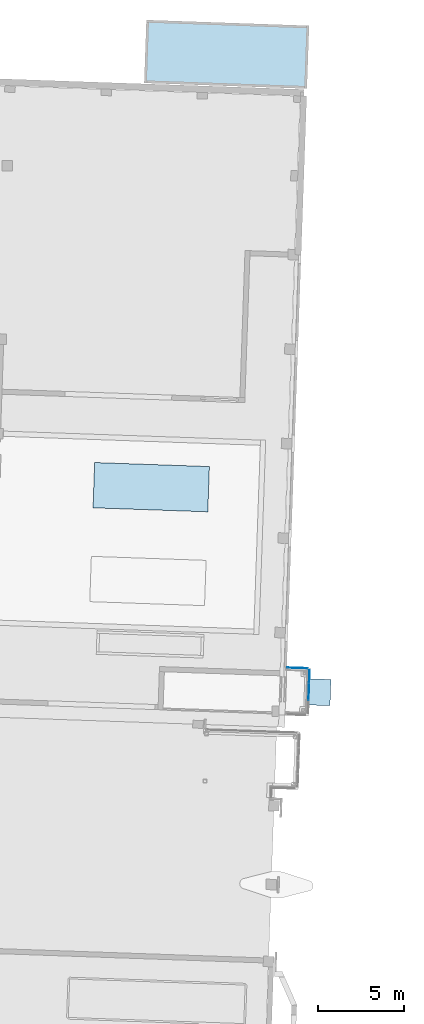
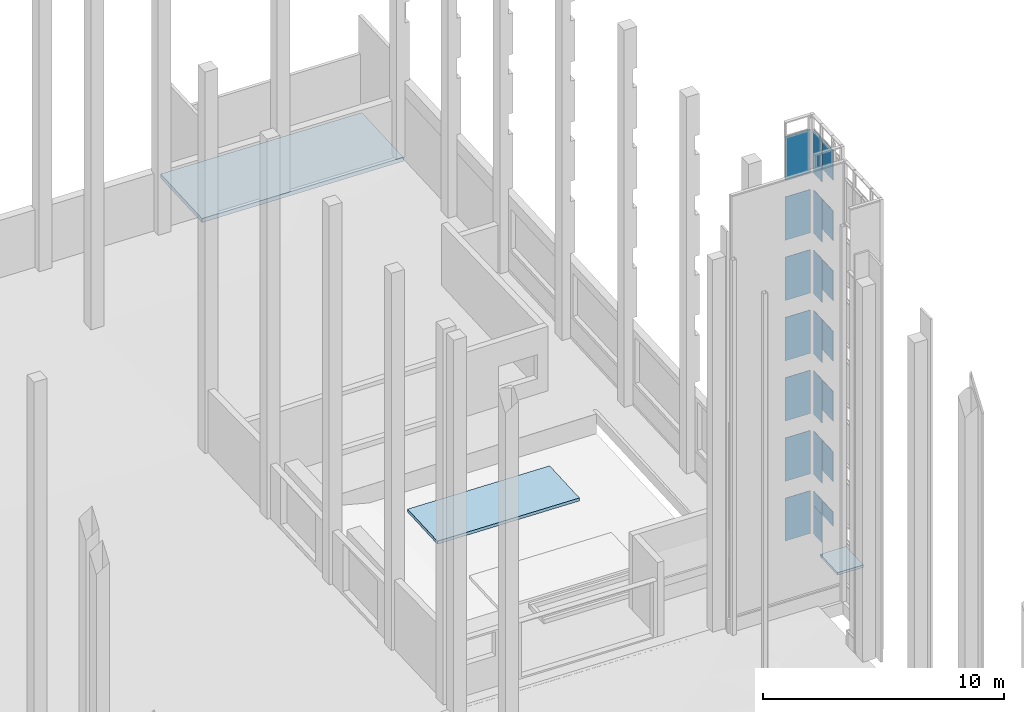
# One storey, part 24 of 44: 22 plates, 3 slabs, 2 elements without a shape of their own.
"""IFC2X3 building model written with IfcOpenShell, lengths in feet."""

from ifc_helpers import new_model, entity, si_unit, converted_unit, derived_unit, direction, frame, frame_2d, origin, origin_2d_with_axis, place, context, subcontext, project, spatial, polyline, rectangle, outline, extrude, source, transform, mapped, material, layer, layer_set, layer_usage, type_object, type_shapes, element, aggregate, save


model = new_model("IFC2X3")

# Units and contexts
model_context = context("Model", 3, precision=0.0001, world=origin(), true_north=direction((0.999390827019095, 0.0348994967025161)))
body_context = subcontext(model_context, "Body", "Model", "MODEL_VIEW")
ifc_project = project(units=[converted_unit("LENGTHUNIT", "FOOT", entity("IfcRatioMeasure", 0.3048), si_unit("LENGTHUNIT", "METRE"), dimensions=[1, 0, 0, 0, 0, 0, 0]), converted_unit("AREAUNIT", "SQUARE FOOT", entity("IfcRatioMeasure", 0.09290304), si_unit("AREAUNIT", "SQUARE_METRE"), dimensions=[2, 0, 0, 0, 0, 0, 0]), converted_unit("VOLUMEUNIT", "CUBIC FOOT", entity("IfcRatioMeasure", 0.028316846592), si_unit("VOLUMEUNIT", "CUBIC_METRE"), dimensions=[3, 0, 0, 0, 0, 0, 0]), converted_unit("PLANEANGLEUNIT", "DEGREE", entity("IfcRatioMeasure", 0.0174532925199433), si_unit("PLANEANGLEUNIT", "RADIAN"), dimensions=[0, 0, 0, 0, 0, 0, 0]), si_unit("MASSUNIT", "GRAM", prefix="KILO"), si_unit("TIMEUNIT", "SECOND"), si_unit("FREQUENCYUNIT", "HERTZ"), si_unit("THERMODYNAMICTEMPERATUREUNIT", "DEGREE_CELSIUS"), derived_unit("THERMALTRANSMITTANCEUNIT", [(si_unit("MASSUNIT", "GRAM", prefix="KILO"), 1), (si_unit("THERMODYNAMICTEMPERATUREUNIT", "KELVIN"), -1), (si_unit("TIMEUNIT", "SECOND"), -3)]), derived_unit("VOLUMETRICFLOWRATEUNIT", [(si_unit("LENGTHUNIT", "METRE"), 3), (si_unit("TIMEUNIT", "SECOND"), -1)]), si_unit("ELECTRICCURRENTUNIT", "AMPERE"), si_unit("ELECTRICVOLTAGEUNIT", "VOLT"), si_unit("POWERUNIT", "WATT"), si_unit("FORCEUNIT", "NEWTON"), si_unit("ILLUMINANCEUNIT", "LUX"), si_unit("LUMINOUSFLUXUNIT", "LUMEN"), si_unit("LUMINOUSINTENSITYUNIT", "CANDELA"), derived_unit("USERDEFINED", [(si_unit("MASSUNIT", "GRAM", prefix="KILO"), -1), (si_unit("LENGTHUNIT", "METRE"), -2), (si_unit("TIMEUNIT", "SECOND"), 3), (si_unit("LUMINOUSFLUXUNIT", "LUMEN"), 1)]), derived_unit("LINEARVELOCITYUNIT", [(si_unit("LENGTHUNIT", "METRE"), 1), (si_unit("TIMEUNIT", "SECOND"), -1)]), si_unit("PRESSUREUNIT", "PASCAL"), derived_unit("USERDEFINED", [(si_unit("LENGTHUNIT", "METRE"), -2), (si_unit("MASSUNIT", "GRAM", prefix="KILO"), 1), (si_unit("TIMEUNIT", "SECOND"), -2)])], contexts=[model_context])

# Site, building, storey
site_placement = place(None, frame((892.518771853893, 322.38689265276, 0.00393700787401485), z_axis=(0.0, 0.0, 1.0), x_axis=(0.0348994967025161, 0.999390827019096, 0.0)))
site = spatial("IfcSite", under=ifc_project, at=site_placement, Name="Default", CompositionType="ELEMENT")
building_placement = place(site_placement, origin())
building = spatial("IfcBuilding", under=site, at=building_placement, CompositionType="ELEMENT")
storey_placement = place(building_placement, frame((0.0, 0.0, 544.75)))
storey = spatial("IfcBuildingStorey", under=building, at=storey_placement, Name="Exist Garage - Ground Level", CompositionType="ELEMENT", Elevation=544.75)

# Curtain wall, plates
curtain_wall_type = type_object("IfcCurtainWallType", Name="Curtain Wall:(Existing) Curtainwall - Blank", PredefinedType="NOTDEFINED")
curtain_wall_1_placement = place(storey_placement, frame((0.0, 0.0, -544.75)))
curtain_wall_1 = element("IfcCurtainWall", 1, at=curtain_wall_1_placement, inside=storey, type_object=curtain_wall_type, Name="Curtain Wall:(Existing) Curtainwall - Blank", ObjectType="Curtain Wall:(Existing) Curtainwall - Blank")
ifc_material_1 = material(Name="Glazing - Core & Shell Curtain Wall")
plate_type_1 = type_object("IfcPlateType", Name="1\" Insulated Clear Glass", PredefinedType="CURTAIN_PANEL", material=ifc_material_1)
shared_shape_1 = source(origin(), body_context, "Body", "SweptSolid", [
    extrude(rectangle(XDim=0.0833333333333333, YDim=3.86979166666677, at=origin_2d_with_axis()), frame((0.0, 0.0, 0.0), z_axis=(0.0, 0.0, 1.0), x_axis=(0.0, 1.0, 0.0)), (0.0, 0.0, 1.0), 7.09375),
])
type_shapes(plate_type_1, [shared_shape_1])
plate_1_placement = place(curtain_wall_1_placement, frame((114.302296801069, 233.198849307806, 547.130208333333), z_axis=(0.0, 0.0, 1.0), x_axis=(0.0, 1.0, 0.0)))
plate_1 = element("IfcPlate", 2, at=plate_1_placement, type_object=plate_type_1, material=ifc_material_1, Name="System Panel:1\" Insulated Clear Glass", ObjectType="1\" Insulated Clear Glass", context=body_context, shape_type="MappedRepresentation", body=[
    mapped(shared_shape_1, transform((0.0, 0.0, 0.0), scale=1.0)),
])
plate_type_2 = type_object("IfcPlateType", Name="1\" Insulated Clear Glass", PredefinedType="CURTAIN_PANEL", material=ifc_material_1)
shared_shape_2 = source(origin(), body_context, "Body", "SweptSolid", [
    extrude(rectangle(XDim=0.0833333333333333, YDim=3.86979166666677, at=origin_2d_with_axis()), frame((0.0, 0.0, 0.0), z_axis=(0.0, 0.0, 1.0), x_axis=(0.0, 1.0, 0.0)), (0.0, 0.0, 1.0), 7.19791666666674),
])
type_shapes(plate_type_2, [shared_shape_2])
plate_2_placement = place(curtain_wall_1_placement, frame((114.302296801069, 233.198849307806, 557.026041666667), z_axis=(0.0, 0.0, 1.0), x_axis=(0.0, 1.0, 0.0)))
plate_2 = element("IfcPlate", 3, at=plate_2_placement, type_object=plate_type_2, material=ifc_material_1, Name="System Panel:1\" Insulated Clear Glass", ObjectType="1\" Insulated Clear Glass", context=body_context, shape_type="MappedRepresentation", body=[
    mapped(shared_shape_2, transform((0.0, 0.0, 0.0), scale=1.0)),
])
plate_3_placement = place(curtain_wall_1_placement, frame((114.302296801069, 233.198849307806, 567.026041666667), z_axis=(0.0, 0.0, 1.0), x_axis=(0.0, 1.0, 0.0)))
plate_3 = element("IfcPlate", 4, at=plate_3_placement, type_object=plate_type_2, material=ifc_material_1, Name="System Panel:1\" Insulated Clear Glass", ObjectType="1\" Insulated Clear Glass", context=body_context, shape_type="MappedRepresentation", body=[
    mapped(shared_shape_2, transform((0.0, 0.0, 0.0), scale=1.0)),
])
plate_4_placement = place(curtain_wall_1_placement, frame((114.302296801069, 233.198849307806, 577.026041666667), z_axis=(0.0, 0.0, 1.0), x_axis=(0.0, 1.0, 0.0)))
plate_4 = element("IfcPlate", 5, at=plate_4_placement, type_object=plate_type_2, material=ifc_material_1, Name="System Panel:1\" Insulated Clear Glass", ObjectType="1\" Insulated Clear Glass", context=body_context, shape_type="MappedRepresentation", body=[
    mapped(shared_shape_2, transform((0.0, 0.0, 0.0), scale=1.0)),
])
plate_5_placement = place(curtain_wall_1_placement, frame((114.302296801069, 233.198849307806, 587.026041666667), z_axis=(0.0, 0.0, 1.0), x_axis=(0.0, 1.0, 0.0)))
plate_5 = element("IfcPlate", 6, at=plate_5_placement, type_object=plate_type_2, material=ifc_material_1, Name="System Panel:1\" Insulated Clear Glass", ObjectType="1\" Insulated Clear Glass", context=body_context, shape_type="MappedRepresentation", body=[
    mapped(shared_shape_2, transform((0.0, 0.0, 0.0), scale=1.0)),
])
plate_6_placement = place(curtain_wall_1_placement, frame((114.302296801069, 233.198849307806, 597.026041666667), z_axis=(0.0, 0.0, 1.0), x_axis=(0.0, 1.0, 0.0)))
plate_6 = element("IfcPlate", 7, at=plate_6_placement, type_object=plate_type_2, material=ifc_material_1, Name="System Panel:1\" Insulated Clear Glass", ObjectType="1\" Insulated Clear Glass", context=body_context, shape_type="MappedRepresentation", body=[
    mapped(shared_shape_2, transform((0.0, 0.0, 0.0), scale=1.0)),
])
plate_7_placement = place(curtain_wall_1_placement, frame((114.302296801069, 233.198849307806, 607.026041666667), z_axis=(0.0, 0.0, 1.0), x_axis=(0.0, 1.0, 0.0)))
plate_7 = element("IfcPlate", 8, at=plate_7_placement, type_object=plate_type_2, material=ifc_material_1, Name="System Panel:1\" Insulated Clear Glass", ObjectType="1\" Insulated Clear Glass", context=body_context, shape_type="MappedRepresentation", body=[
    mapped(shared_shape_2, transform((0.0, 0.0, 0.0), scale=1.0)),
])
aggregate(curtain_wall_1, [plate_1, plate_2, plate_3, plate_4, plate_5, plate_6, plate_7])

curtain_wall_2_placement = place(storey_placement, frame((0.0, 0.0, -544.75)))
curtain_wall_2 = element("IfcCurtainWall", 9, at=curtain_wall_2_placement, inside=storey, type_object=curtain_wall_type, Name="Curtain Wall:(Existing) Curtainwall - Blank", ObjectType="Curtain Wall:(Existing) Curtainwall - Blank")
plate_type_3 = type_object("IfcPlateType", Name="1\" Insulated Clear Glass", PredefinedType="CURTAIN_PANEL", material=ifc_material_1)
shared_shape_3 = source(origin(), body_context, "Body", "SweptSolid", [
    extrude(outline(polyline([(-3.15277777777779, -0.84375062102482), (3.92534722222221, -0.84375062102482), (3.92534722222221, 1.60937624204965), (-0.772569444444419, 1.60937624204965), (-0.772569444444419, -0.765625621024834), (-3.15277777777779, -0.765625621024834), (-3.15277777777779, -0.84375062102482)])), frame((-0.38281281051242, -0.0416666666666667, 3.15277777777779), z_axis=(0.0, 1.0, 0.0), x_axis=(0.0, 0.0, 1.0)), (0.0, 0.0, 1.0), 0.0833333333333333),
])
type_shapes(plate_type_3, [shared_shape_3])
plate_8_placement = place(curtain_wall_2_placement, frame((112.700733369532, 230.888953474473, 544.75)))
plate_8 = element("IfcPlate", 10, at=plate_8_placement, type_object=plate_type_3, material=ifc_material_1, Name="System Panel:1\" Insulated Clear Glass", ObjectType="1\" Insulated Clear Glass", context=body_context, shape_type="MappedRepresentation", body=[
    mapped(shared_shape_3, transform((0.0, 0.0, 0.0), scale=1.0)),
])
plate_type_4 = type_object("IfcPlateType", Name="1\" Insulated Clear Glass", PredefinedType="CURTAIN_PANEL", material=ifc_material_1)
shared_shape_4 = source(origin(), body_context, "Body", "SweptSolid", [
    extrude(rectangle(XDim=0.0833333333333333, YDim=2.45312686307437, at=origin_2d_with_axis()), frame((0.0, 0.0, 0.0), z_axis=(0.0, 0.0, 1.0), x_axis=(0.0, 1.0, 0.0)), (0.0, 0.0, 1.0), 2.34375000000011),
])
type_shapes(plate_type_4, [shared_shape_4])
plate_9_placement = place(curtain_wall_2_placement, frame((112.700733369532, 230.888953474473, 551.880208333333)))
plate_9 = element("IfcPlate", 11, at=plate_9_placement, type_object=plate_type_4, material=ifc_material_1, Name="System Panel:1\" Insulated Clear Glass", ObjectType="1\" Insulated Clear Glass", context=body_context, shape_type="MappedRepresentation", body=[
    mapped(shared_shape_4, transform((0.0, 0.0, 0.0), scale=1.0)),
])
plate_type_5 = type_object("IfcPlateType", Name="1\" Insulated Clear Glass", PredefinedType="CURTAIN_PANEL", material=ifc_material_1)
shared_shape_5 = source(origin(), body_context, "Body", "SweptSolid", [
    extrude(rectangle(XDim=0.0833333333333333, YDim=3.15625000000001, at=origin_2d_with_axis()), frame((0.0, 0.0, 0.0), z_axis=(0.0, 0.0, 1.0), x_axis=(0.0, 1.0, 0.0)), (0.0, 0.0, 1.0), 2.34375000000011),
])
type_shapes(plate_type_5, [shared_shape_5])
plate_10_placement = place(curtain_wall_2_placement, frame((109.843961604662, 230.888953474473, 551.880208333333)))
plate_10 = element("IfcPlate", 12, at=plate_10_placement, type_object=plate_type_5, material=ifc_material_1, Name="System Panel:1\" Insulated Clear Glass", ObjectType="1\" Insulated Clear Glass", context=body_context, shape_type="MappedRepresentation", body=[
    mapped(shared_shape_5, transform((0.0, 0.0, 0.0), scale=1.0)),
])
plate_type_6 = type_object("IfcPlateType", Name="1\" Insulated Clear Glass", PredefinedType="CURTAIN_PANEL", material=ifc_material_1)
shared_shape_6 = source(origin(), body_context, "Body", "SweptSolid", [
    extrude(rectangle(XDim=7.19791666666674, YDim=2.45312686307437, at=frame_2d((0.458333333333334, 0.0), x_axis=(1.0, 0.0))), frame((0.0, -0.0416666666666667, 3.14062500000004), z_axis=(0.0, 1.0, 0.0), x_axis=(0.0, 0.0, 1.0)), (0.0, 0.0, 1.0), 0.0833333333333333),
])
type_shapes(plate_type_6, [shared_shape_6])
plate_11_placement = place(curtain_wall_2_placement, frame((112.700733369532, 230.888953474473, 557.026041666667)))
plate_11 = element("IfcPlate", 13, at=plate_11_placement, type_object=plate_type_6, material=ifc_material_1, Name="System Panel:1\" Insulated Clear Glass", ObjectType="1\" Insulated Clear Glass", context=body_context, shape_type="MappedRepresentation", body=[
    mapped(shared_shape_6, transform((0.0, 0.0, 0.0), scale=1.0)),
])
plate_12_placement = place(curtain_wall_2_placement, frame((112.700733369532, 230.888953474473, 567.026041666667)))
plate_12 = element("IfcPlate", 14, at=plate_12_placement, type_object=plate_type_6, material=ifc_material_1, Name="System Panel:1\" Insulated Clear Glass", ObjectType="1\" Insulated Clear Glass", context=body_context, shape_type="MappedRepresentation", body=[
    mapped(shared_shape_6, transform((0.0, 0.0, 0.0), scale=1.0)),
])
plate_13_placement = place(curtain_wall_2_placement, frame((112.700733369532, 230.888953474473, 577.026041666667)))
plate_13 = element("IfcPlate", 15, at=plate_13_placement, type_object=plate_type_6, material=ifc_material_1, Name="System Panel:1\" Insulated Clear Glass", ObjectType="1\" Insulated Clear Glass", context=body_context, shape_type="MappedRepresentation", body=[
    mapped(shared_shape_6, transform((0.0, 0.0, 0.0), scale=1.0)),
])
plate_14_placement = place(curtain_wall_2_placement, frame((112.700733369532, 230.888953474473, 587.026041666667)))
plate_14 = element("IfcPlate", 16, at=plate_14_placement, type_object=plate_type_6, material=ifc_material_1, Name="System Panel:1\" Insulated Clear Glass", ObjectType="1\" Insulated Clear Glass", context=body_context, shape_type="MappedRepresentation", body=[
    mapped(shared_shape_6, transform((0.0, 0.0, 0.0), scale=1.0)),
])
plate_15_placement = place(curtain_wall_2_placement, frame((112.700733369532, 230.888953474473, 597.026041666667)))
plate_15 = element("IfcPlate", 17, at=plate_15_placement, type_object=plate_type_6, material=ifc_material_1, Name="System Panel:1\" Insulated Clear Glass", ObjectType="1\" Insulated Clear Glass", context=body_context, shape_type="MappedRepresentation", body=[
    mapped(shared_shape_6, transform((0.0, 0.0, 0.0), scale=1.0)),
])
plate_16_placement = place(curtain_wall_2_placement, frame((112.700733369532, 230.888953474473, 607.026041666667)))
plate_16 = element("IfcPlate", 18, at=plate_16_placement, type_object=plate_type_6, material=ifc_material_1, Name="System Panel:1\" Insulated Clear Glass", ObjectType="1\" Insulated Clear Glass", context=body_context, shape_type="MappedRepresentation", body=[
    mapped(shared_shape_6, transform((0.0, 0.0, 0.0), scale=1.0)),
])
plate_type_7 = type_object("IfcPlateType", Name="1\" Insulated Clear Glass", PredefinedType="CURTAIN_PANEL", material=ifc_material_1)
shared_shape_7 = source(origin(), body_context, "Body", "SweptSolid", [
    extrude(rectangle(XDim=0.0833333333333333, YDim=3.15625000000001, at=origin_2d_with_axis()), frame((0.0, 0.0, 0.0), z_axis=(0.0, 0.0, 1.0), x_axis=(0.0, 1.0, 0.0)), (0.0, 0.0, 1.0), 4.94791666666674),
])
type_shapes(plate_type_7, [shared_shape_7])
plate_17_placement = place(curtain_wall_2_placement, frame((109.843961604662, 230.888953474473, 559.276041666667)))
plate_17 = element("IfcPlate", 19, at=plate_17_placement, type_object=plate_type_7, material=ifc_material_1, Name="System Panel:1\" Insulated Clear Glass", ObjectType="1\" Insulated Clear Glass", context=body_context, shape_type="MappedRepresentation", body=[
    mapped(shared_shape_7, transform((0.0, 0.0, 0.0), scale=1.0)),
])
plate_18_placement = place(curtain_wall_2_placement, frame((109.843961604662, 230.888953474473, 569.276041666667)))
plate_18 = element("IfcPlate", 20, at=plate_18_placement, type_object=plate_type_7, material=ifc_material_1, Name="System Panel:1\" Insulated Clear Glass", ObjectType="1\" Insulated Clear Glass", context=body_context, shape_type="MappedRepresentation", body=[
    mapped(shared_shape_7, transform((0.0, 0.0, 0.0), scale=1.0)),
])
plate_19_placement = place(curtain_wall_2_placement, frame((109.843961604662, 230.888953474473, 579.276041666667)))
plate_19 = element("IfcPlate", 21, at=plate_19_placement, type_object=plate_type_7, material=ifc_material_1, Name="System Panel:1\" Insulated Clear Glass", ObjectType="1\" Insulated Clear Glass", context=body_context, shape_type="MappedRepresentation", body=[
    mapped(shared_shape_7, transform((0.0, 0.0, 0.0), scale=1.0)),
])
plate_20_placement = place(curtain_wall_2_placement, frame((109.843961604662, 230.888953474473, 589.276041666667)))
plate_20 = element("IfcPlate", 22, at=plate_20_placement, type_object=plate_type_7, material=ifc_material_1, Name="System Panel:1\" Insulated Clear Glass", ObjectType="1\" Insulated Clear Glass", context=body_context, shape_type="MappedRepresentation", body=[
    mapped(shared_shape_7, transform((0.0, 0.0, 0.0), scale=1.0)),
])
plate_21_placement = place(curtain_wall_2_placement, frame((109.843961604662, 230.888953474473, 599.276041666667)))
plate_21 = element("IfcPlate", 23, at=plate_21_placement, type_object=plate_type_7, material=ifc_material_1, Name="System Panel:1\" Insulated Clear Glass", ObjectType="1\" Insulated Clear Glass", context=body_context, shape_type="MappedRepresentation", body=[
    mapped(shared_shape_7, transform((0.0, 0.0, 0.0), scale=1.0)),
])
plate_22_placement = place(curtain_wall_2_placement, frame((109.843961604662, 230.888953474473, 609.276041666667)))
plate_22 = element("IfcPlate", 24, at=plate_22_placement, type_object=plate_type_7, material=ifc_material_1, Name="System Panel:1\" Insulated Clear Glass", ObjectType="1\" Insulated Clear Glass", context=body_context, shape_type="MappedRepresentation", body=[
    mapped(shared_shape_7, transform((0.0, 0.0, 0.0), scale=1.0)),
])
aggregate(curtain_wall_2, [plate_8, plate_10, plate_9, plate_11, plate_17, plate_12, plate_18, plate_13, plate_19, plate_14, plate_20, plate_15, plate_21, plate_16, plate_22])

# Slabs
ifc_material_2 = material(Name="Concrete - Cast-in-Place Concrete")
ifc_layer_1 = layer(ifc_material_2, 0.416666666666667)
ifc_layer_set_1 = layer_set([ifc_layer_1], Name="Floor:Concrete Slab - 5\"")
ifc_layer_usage_1 = layer_usage(ifc_layer_set_1, "AXIS3", "POSITIVE", 0.0)
slab_1_placement = place(storey_placement, origin())
element("IfcSlab", 25, at=slab_1_placement, inside=storey, material=ifc_layer_usage_1, Name="Floor:Concrete Slab - 5\"", ObjectType="Floor:Concrete Slab - 5\"", PredefinedType="FLOOR", context=body_context, shape_type="SweptSolid", body=[
    extrude(rectangle(XDim=3.99999999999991, YDim=5.0, at=frame_2d((-1.4210854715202e-14, 0.0), x_axis=(1.0, 0.0))), frame((109.843963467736, 228.763953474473, -0.0416666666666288), z_axis=(0.0, 0.0, -1.0), x_axis=(0.0, 1.0, 0.0)), (0.0, 0.0, 1.0), 0.416666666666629),
])
ifc_layer_2 = layer(ifc_material_2, 0.666666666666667)
ifc_layer_set_2 = layer_set([ifc_layer_2], Name="Floor:Concrete Slab - 8\"")
ifc_layer_usage_2 = layer_usage(ifc_layer_set_2, "AXIS3", "POSITIVE", 0.0)
slab_2_placement = place(storey_placement, origin())
element("IfcSlab", 26, at=slab_2_placement, inside=storey, material=ifc_layer_usage_2, Name="Floor:Concrete Slab - 8\"", ObjectType="Floor:Concrete Slab - 8\"", PredefinedType="FLOOR", context=body_context, shape_type="SweptSolid", body=[
    extrude(rectangle(XDim=30.9999999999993, YDim=11.9999999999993, at=frame_2d((-1.4210854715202e-14, 0.0), x_axis=(1.0, 0.0))), frame((230.593959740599, 250.763953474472, -2.08333333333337), z_axis=(0.0, 0.0, -1.0), x_axis=(0.0, 1.0, 0.0)), (0.0, 0.0, 1.0), 0.666666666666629),
])
ifc_layer_3 = layer(ifc_material_2, 0.5)
ifc_layer_set_3 = layer_set([ifc_layer_3], Name="Floor:Concrete Slab - 6\"")
ifc_layer_usage_3 = layer_usage(ifc_layer_set_3, "AXIS3", "POSITIVE", 0.0)
slab_3_placement = place(storey_placement, origin())
element("IfcSlab", 27, at=slab_3_placement, inside=storey, material=ifc_layer_usage_3, Name="Floor:Concrete Slab - 6\"", ObjectType="Floor:Concrete Slab - 6\"", PredefinedType="FLOOR", context=body_context, shape_type="SweptSolid", body=[
    extrude(rectangle(XDim=21.8635177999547, YDim=8.62725086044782, at=frame_2d((1.4210854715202e-14, 0.0), x_axis=(1.0, 0.0))), frame((147.733850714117, 262.241294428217, -3.16666666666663), z_axis=(0.0, 0.0, -1.0), x_axis=(0.0, 1.0, 0.0)), (0.0, 0.0, 1.0), 0.5),
])

save(model, "model.ifc")
